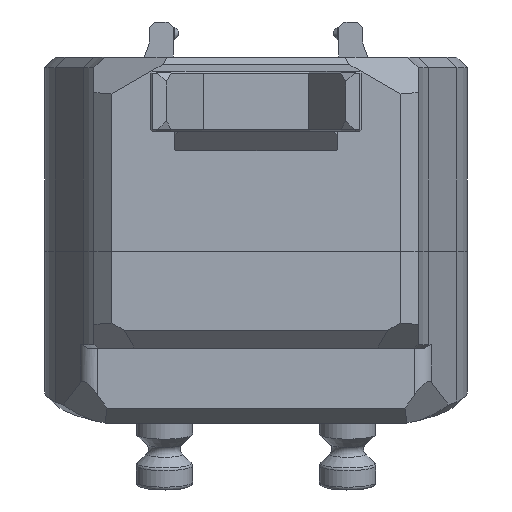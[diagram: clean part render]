
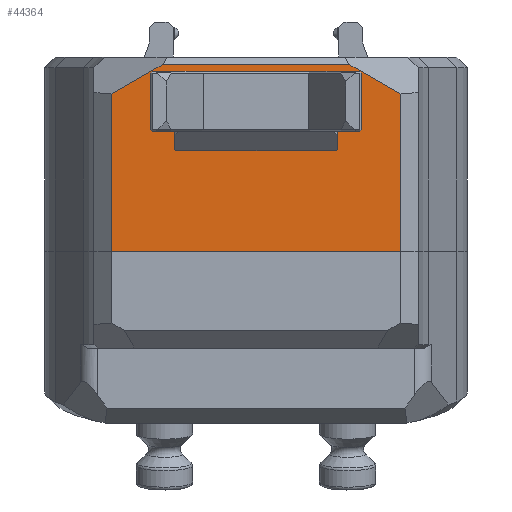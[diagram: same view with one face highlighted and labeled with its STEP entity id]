
A CAD part, front view. The second image highlights one B-rep face of the part: STEP entity #44364.
In plain terms, the highlighted planar face has unit normal (0, -1, 0).
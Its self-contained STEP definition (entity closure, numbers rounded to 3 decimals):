
#764 = LINE ( 'NONE', #6934, #44115 ) ;
#2095 = PLANE ( 'NONE',  #20942 ) ;
#2581 = EDGE_CURVE ( 'NONE', #14998, #18739, #764, .T. ) ;
#2664 = CARTESIAN_POINT ( 'NONE',  ( -41., -147.8, 42.1 ) ) ;
#2979 = ORIENTED_EDGE ( 'NONE', *, *, #19598, .F. ) ;
#6934 = CARTESIAN_POINT ( 'NONE',  ( 74.542, -147.8, 67.288 ) ) ;
#9061 = EDGE_LOOP ( 'NONE', ( #40324, #23389, #27018, #2979, #40656, #10441 ) ) ;
#10339 = VECTOR ( 'NONE', #26061, 1000. ) ;
#10441 = ORIENTED_EDGE ( 'NONE', *, *, #25504, .T. ) ;
#11954 = VERTEX_POINT ( 'NONE', #15060 ) ;
#12877 = DIRECTION ( 'NONE',  ( -1., 0., 0. ) ) ;
#13326 = CARTESIAN_POINT ( 'NONE',  ( -22.906, -147.8, 95.1 ) ) ;
#14998 = VERTEX_POINT ( 'NONE', #36010 ) ;
#15060 = CARTESIAN_POINT ( 'NONE',  ( -26.37, -147.8, 95.1 ) ) ;
#17859 = VERTEX_POINT ( 'NONE', #42586 ) ;
#18042 = EDGE_CURVE ( 'NONE', #31519, #27769, #24148, .T. ) ;
#18739 = VERTEX_POINT ( 'NONE', #35432 ) ;
#19598 = EDGE_CURVE ( 'NONE', #31519, #11954, #44472, .T. ) ;
#20358 = CARTESIAN_POINT ( 'NONE',  ( 41., -147.8, 97.1 ) ) ;
#20942 = AXIS2_PLACEMENT_3D ( 'NONE', #33915, #44059, #30039 ) ;
#21070 = CARTESIAN_POINT ( 'NONE',  ( -41., -147.8, 86.653 ) ) ;
#23389 = ORIENTED_EDGE ( 'NONE', *, *, #2581, .T. ) ;
#24148 = LINE ( 'NONE', #38097, #42202 ) ;
#25365 = LINE ( 'NONE', #36343, #10339 ) ;
#25504 = EDGE_CURVE ( 'NONE', #27769, #17859, #25365, .T. ) ;
#26061 = DIRECTION ( 'NONE',  ( 1., 0., 0. ) ) ;
#26734 = DIRECTION ( 'NONE',  ( 0., 0., 1. ) ) ;
#27018 = ORIENTED_EDGE ( 'NONE', *, *, #33440, .T. ) ;
#27769 = VERTEX_POINT ( 'NONE', #2664 ) ;
#28140 = VECTOR ( 'NONE', #12877, 1000. ) ;
#29877 = VECTOR ( 'NONE', #33422, 1000. ) ;
#30039 = DIRECTION ( 'NONE',  ( 0., 0., 1. ) ) ;
#30447 = CARTESIAN_POINT ( 'NONE',  ( -74.542, -147.8, 67.288 ) ) ;
#31282 = LINE ( 'NONE', #13326, #28140 ) ;
#31519 = VERTEX_POINT ( 'NONE', #21070 ) ;
#33422 = DIRECTION ( 'NONE',  ( 0.866, 0., 0.5 ) ) ;
#33440 = EDGE_CURVE ( 'NONE', #18739, #11954, #31282, .T. ) ;
#33478 = FACE_OUTER_BOUND ( 'NONE', #9061, .T. ) ;
#33915 = CARTESIAN_POINT ( 'NONE',  ( 46., -147.8, 97.1 ) ) ;
#34690 = DIRECTION ( 'NONE',  ( 0., 0., -1. ) ) ;
#35432 = CARTESIAN_POINT ( 'NONE',  ( 26.37, -147.8, 95.1 ) ) ;
#36010 = CARTESIAN_POINT ( 'NONE',  ( 41., -147.8, 86.653 ) ) ;
#36343 = CARTESIAN_POINT ( 'NONE',  ( 46., -147.8, 42.1 ) ) ;
#36839 = EDGE_CURVE ( 'NONE', #17859, #14998, #37468, .T. ) ;
#37384 = VECTOR ( 'NONE', #26734, 1000. ) ;
#37468 = LINE ( 'NONE', #20358, #37384 ) ;
#38097 = CARTESIAN_POINT ( 'NONE',  ( -41., -147.8, 97.1 ) ) ;
#40324 = ORIENTED_EDGE ( 'NONE', *, *, #36839, .T. ) ;
#40656 = ORIENTED_EDGE ( 'NONE', *, *, #18042, .T. ) ;
#42202 = VECTOR ( 'NONE', #34690, 1000. ) ;
#42211 = DIRECTION ( 'NONE',  ( -0.866, 0., 0.5 ) ) ;
#42586 = CARTESIAN_POINT ( 'NONE',  ( 41., -147.8, 42.1 ) ) ;
#44059 = DIRECTION ( 'NONE',  ( 0., 1., 0. ) ) ;
#44115 = VECTOR ( 'NONE', #42211, 1000. ) ;
#44364 = ADVANCED_FACE ( 'NONE', ( #33478 ), #2095, .F. ) ;
#44472 = LINE ( 'NONE', #30447, #29877 ) ;
